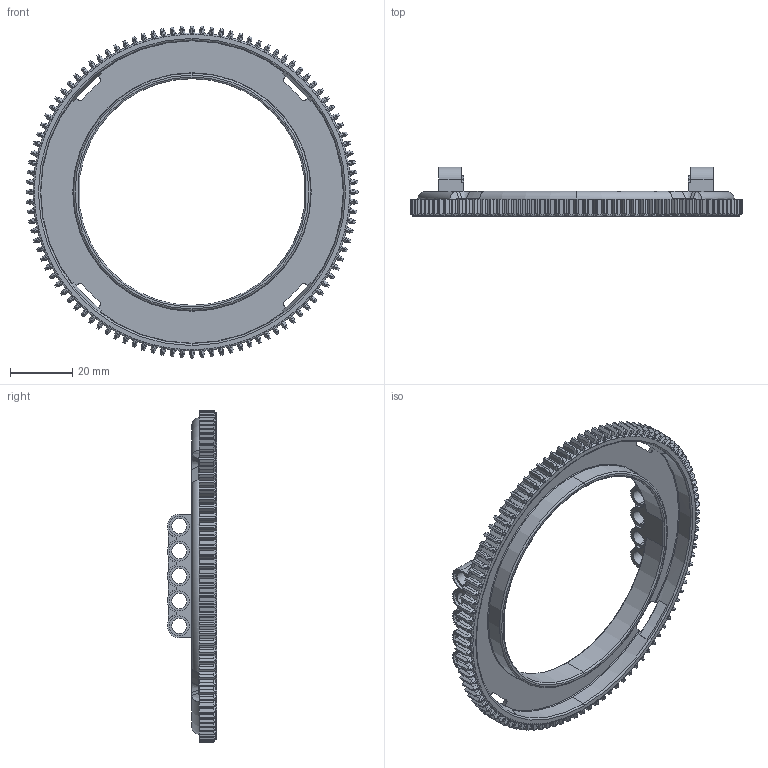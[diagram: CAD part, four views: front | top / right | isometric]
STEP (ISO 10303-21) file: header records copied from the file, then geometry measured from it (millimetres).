
FILE_DESCRIPTION (( 'STEP AP214' ), '1' );
FILE_NAME ('Turntable XXL Top.STP', '2021-12-28T09:26:28', ( '' ), ( '' ), 'SwSTEP 2.0', 'SolidWorks 2021', '' );
FILE_SCHEMA (( 'AUTOMOTIVE_DESIGN' ));
Length unit declared in the file: millimetre
Products named in the file (1): Turntable XXL Top
Bounding box: 106.47 x 15.8 x 106.47 mm (x, y, z)
Volume: 18445.6 mm3; surface area: 19491.9 mm2
Topology: 1 solids, 1 shells, 1482 faces, 4406 edges, 2931 vertices
Faces by surface type: plane 945, cylinder 385, torus 126, cone 18, bspline 8
Entity records: 51229 total; most frequent: CARTESIAN_POINT 13364, ORIENTED_EDGE 8812, DIRECTION 6921, EDGE_CURVE 4406, VERTEX_POINT 2931, VECTOR 2825, LINE 2825, AXIS2_PLACEMENT_3D 2048
